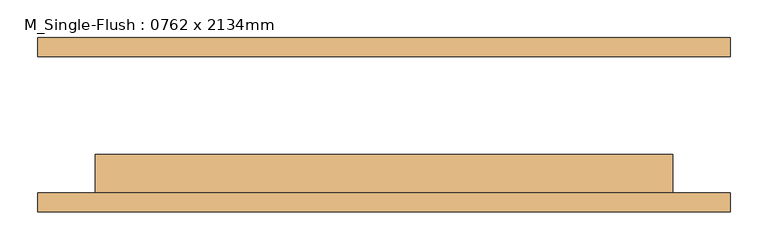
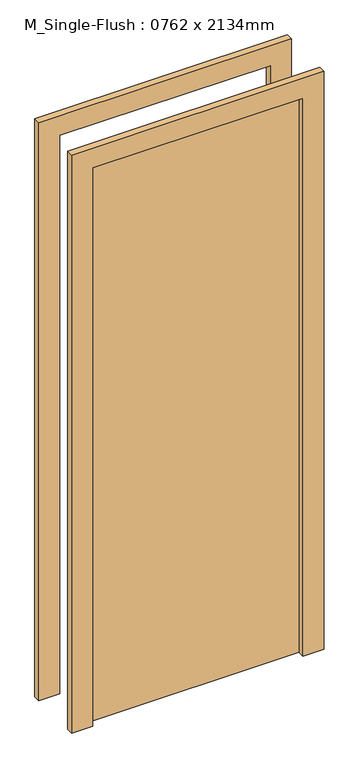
"""IFC4 building model written with IfcOpenShell, lengths in millimetres: door geometry, M_Single-Flush : 0762 x 2134mm."""

from ifc_helpers import new_model, si_unit, frame, origin, origin_with_axes, place, context, project, spatial, polyline, outline, extrude, source, transform, mapped, element, save


def m_single_flush_0762_x_2134mm_e7173df3(model_context):
    return source(origin(), model_context, "Body", "SweptSolid", [
        extrude(outline(polyline([(2210.0, -457.0), (0.0, -457.0), (0.0, -381.0), (2134.0, -381.0), (2134.0, 381.0), (0.0, 381.0), (0.0, 457.0), (2210.0, 457.0), (2210.0, -457.0)])), frame((0.0, -115.0, 0.0), z_axis=(0.0, 1.0, 0.0), x_axis=(0.0, 0.0, 1.0)), (0.0, 0.0, 1.0), 25.0),
        extrude(outline(polyline([(2210.0, 457.0), (2210.0, -457.0), (0.0, -457.0), (0.0, -381.0), (2134.0, -381.0), (2134.0, 381.0), (0.0, 381.0), (0.0, 457.0), (2210.0, 457.0)])), frame((0.0, 90.0, 0.0), z_axis=(0.0, 1.0, 0.0), x_axis=(0.0, 0.0, 1.0)), (0.0, 0.0, 1.0), 25.0),
        extrude(outline(polyline([(381.0, -39.0), (381.0, -90.0), (-381.0, -90.0), (-381.0, -39.0), (381.0, -39.0)])), origin_with_axes(), (0.0, 0.0, 1.0), 2134.0),
    ])


if __name__ == "__main__":
    model = new_model("IFC4")
    model_context = context("Model", 3, world=origin())
    ifc_project = project(units=[si_unit("LENGTHUNIT", "METRE", prefix="MILLI")], contexts=[model_context])
    site = spatial("IfcSite", under=ifc_project)
    building = spatial("IfcBuilding", under=site)
    placement = place(None, origin())
    m_single_flush_0762_x_2134mm_shape = m_single_flush_0762_x_2134mm_e7173df3(model_context)
    element("IfcDoor", 1, ObjectType="M_Single-Flush : 0762 x 2134mm", at=placement, inside=building, context=model_context, shape_type="MappedRepresentation", body=[
        mapped(m_single_flush_0762_x_2134mm_shape, transform((0.0, 0.0, 0.0), x_axis=(1.0, 0.0, 0.0), y_axis=(0.0, 1.0, 0.0), z_axis=(0.0, 0.0, 1.0))),
    ])
    save(model, "model.ifc")
